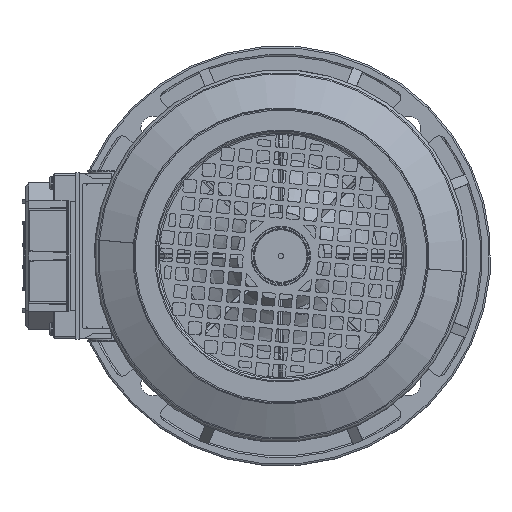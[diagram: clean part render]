
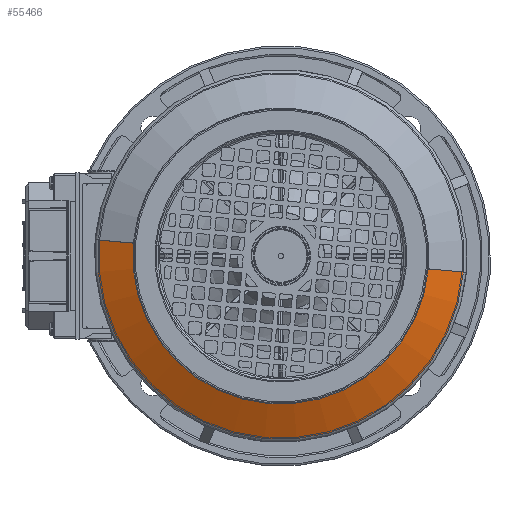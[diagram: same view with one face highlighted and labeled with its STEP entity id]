
A CAD part, left-side view. The second image highlights one B-rep face of the part: STEP entity #55466.
In plain terms, the highlighted conical face has half-angle 64 degrees and reference radius 109.115 mm.
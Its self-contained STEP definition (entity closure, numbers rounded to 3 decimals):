
#1098 = ORIENTED_EDGE ( 'NONE', *, *, #104259, .T. ) ;
#9781 = FACE_OUTER_BOUND ( 'NONE', #72567, .T. ) ;
#13481 = EDGE_CURVE ( 'NONE', #80391, #96322, #36554, .T. ) ;
#13930 = EDGE_CURVE ( 'NONE', #91494, #22936, #50851, .T. ) ;
#14415 = CARTESIAN_POINT ( 'NONE',  ( -109.115, 10.542, 0. ) ) ;
#16622 = ORIENTED_EDGE ( 'NONE', *, *, #13481, .F. ) ;
#17578 = CARTESIAN_POINT ( 'NONE',  ( 0., 10.542, 0. ) ) ;
#20685 = CARTESIAN_POINT ( 'NONE',  ( 109.115, 10.542, 0. ) ) ;
#21635 = DIRECTION ( 'NONE',  ( 0., 1., 0. ) ) ;
#22936 = VERTEX_POINT ( 'NONE', #90471 ) ;
#24453 = VECTOR ( 'NONE', #78226, 1000. ) ;
#26744 = DIRECTION ( 'NONE',  ( -1., 0., 0. ) ) ;
#29418 = CARTESIAN_POINT ( 'NONE',  ( 109.115, 10.542, 0. ) ) ;
#35737 = CARTESIAN_POINT ( 'NONE',  ( 0., 0.304, 0. ) ) ;
#36554 = CIRCLE ( 'NONE', #65721, 109.115 ) ;
#36601 = AXIS2_PLACEMENT_3D ( 'NONE', #35737, #99625, #45011 ) ;
#45011 = DIRECTION ( 'NONE',  ( -1., 0., 0. ) ) ;
#48771 = DIRECTION ( 'NONE',  ( -1., 0., 0. ) ) ;
#49385 = VECTOR ( 'NONE', #84484, 1000. ) ;
#50851 = CIRCLE ( 'NONE', #36601, 88.123 ) ;
#55466 = ADVANCED_FACE ( 'NONE', ( #9781 ), #101117, .T. ) ;
#58490 = EDGE_CURVE ( 'NONE', #91494, #80391, #73645, .T. ) ;
#62513 = AXIS2_PLACEMENT_3D ( 'NONE', #103366, #21635, #48771 ) ;
#65721 = AXIS2_PLACEMENT_3D ( 'NONE', #17578, #81373, #26744 ) ;
#72567 = EDGE_LOOP ( 'NONE', ( #77214, #97015, #1098, #16622 ) ) ;
#73645 = LINE ( 'NONE', #20685, #49385 ) ;
#77214 = ORIENTED_EDGE ( 'NONE', *, *, #58490, .F. ) ;
#78226 = DIRECTION ( 'NONE',  ( -0.899, 0.438, 0. ) ) ;
#80391 = VERTEX_POINT ( 'NONE', #29418 ) ;
#81373 = DIRECTION ( 'NONE',  ( 0., 1., 0. ) ) ;
#84484 = DIRECTION ( 'NONE',  ( 0.899, 0.438, 0. ) ) ;
#84760 = CARTESIAN_POINT ( 'NONE',  ( -109.115, 10.542, 0. ) ) ;
#90471 = CARTESIAN_POINT ( 'NONE',  ( -88.123, 0.304, 0. ) ) ;
#90757 = CARTESIAN_POINT ( 'NONE',  ( 88.123, 0.304, 0. ) ) ;
#91494 = VERTEX_POINT ( 'NONE', #90757 ) ;
#96322 = VERTEX_POINT ( 'NONE', #84760 ) ;
#97015 = ORIENTED_EDGE ( 'NONE', *, *, #13930, .T. ) ;
#99625 = DIRECTION ( 'NONE',  ( 0., 1., 0. ) ) ;
#100100 = LINE ( 'NONE', #14415, #24453 ) ;
#101117 = CONICAL_SURFACE ( 'NONE', #62513, 109.115, 1.117 ) ;
#103366 = CARTESIAN_POINT ( 'NONE',  ( 0., 10.542, 0. ) ) ;
#104259 = EDGE_CURVE ( 'NONE', #22936, #96322, #100100, .T. ) ;
